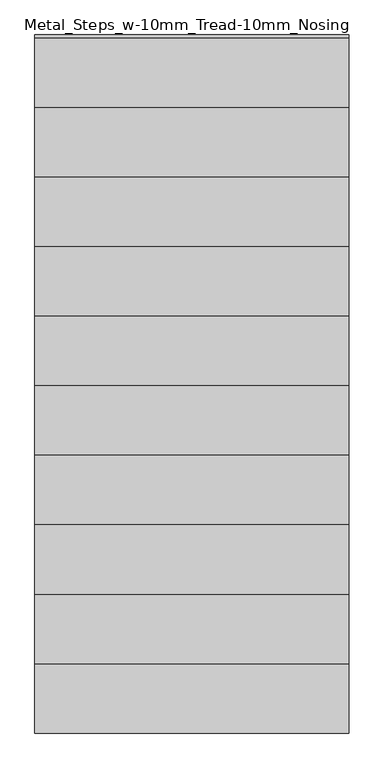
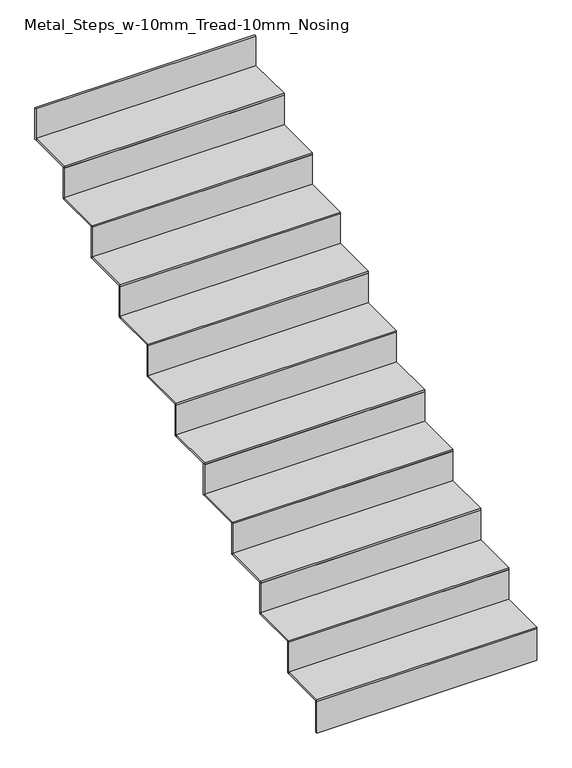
"""IFC4 building model written with IfcOpenShell, lengths in millimetres: stair flight geometry, Metal_Steps_w-10mm_Tread-10mm_Nosing."""

from ifc_helpers import new_model, si_unit, frame, origin, place, context, project, spatial, polyline, outline, extrude, source, transform, mapped, element, save


def metal_steps_w_10mm_tread_10mm_nosing_fdb89158(model_context):
    return source(origin(), model_context, "Body", "SweptSolid", [
        extrude(outline(polyline([(7399.4763518, 4392.5459795), (7399.4763518, 4382.5459795), (6269.4763518, 4382.5459795), (6269.4763518, 4392.5459795), (7399.4763518, 4392.5459795)])), frame((0.0, 0.0, 20625.0), z_axis=(0.0, 0.0, 1.0), x_axis=(1.0, 0.0, 0.0)), (0.0, 0.0, 1.0), 170.4545455),
        extrude(outline(polyline([(6269.4763518, 4632.5459795), (7399.4763518, 4632.5459795), (7399.4763518, 4382.5459795), (6269.4763518, 4382.5459795), (6269.4763518, 4632.5459795)])), frame((0.0, 0.0, 20795.4545455), z_axis=(0.0, 0.0, 1.0), x_axis=(1.0, 0.0, 0.0)), (0.0, 0.0, 1.0), 10.0),
        extrude(outline(polyline([(7399.4763518, 4642.5459795), (7399.4763518, 4632.5459795), (6269.4763518, 4632.5459795), (6269.4763518, 4642.5459795), (7399.4763518, 4642.5459795)])), frame((0.0, 0.0, 20795.4545455), z_axis=(0.0, 0.0, 1.0), x_axis=(1.0, 0.0, 0.0)), (0.0, 0.0, 1.0), 170.4545455),
        extrude(outline(polyline([(6269.4763518, 4882.5459795), (7399.4763518, 4882.5459795), (7399.4763518, 4632.5459795), (6269.4763518, 4632.5459795), (6269.4763518, 4882.5459795)])), frame((0.0, 0.0, 20965.9090909), z_axis=(0.0, 0.0, 1.0), x_axis=(1.0, 0.0, 0.0)), (0.0, 0.0, 1.0), 10.0),
        extrude(outline(polyline([(7399.4763518, 4892.5459795), (7399.4763518, 4882.5459795), (6269.4763518, 4882.5459795), (6269.4763518, 4892.5459795), (7399.4763518, 4892.5459795)])), frame((0.0, 0.0, 20965.9090909), z_axis=(0.0, 0.0, 1.0), x_axis=(1.0, 0.0, 0.0)), (0.0, 0.0, 1.0), 170.4545455),
        extrude(outline(polyline([(6269.4763518, 5132.5459795), (7399.4763518, 5132.5459795), (7399.4763518, 4882.5459795), (6269.4763518, 4882.5459795), (6269.4763518, 5132.5459795)])), frame((0.0, 0.0, 21136.3636364), z_axis=(0.0, 0.0, 1.0), x_axis=(1.0, 0.0, 0.0)), (0.0, 0.0, 1.0), 10.0),
        extrude(outline(polyline([(7399.4763518, 5142.5459795), (7399.4763518, 5132.5459795), (6269.4763518, 5132.5459795), (6269.4763518, 5142.5459795), (7399.4763518, 5142.5459795)])), frame((0.0, 0.0, 21136.3636364), z_axis=(0.0, 0.0, 1.0), x_axis=(1.0, 0.0, 0.0)), (0.0, 0.0, 1.0), 170.4545455),
        extrude(outline(polyline([(6269.4763518, 5382.5459795), (7399.4763518, 5382.5459795), (7399.4763518, 5132.5459795), (6269.4763518, 5132.5459795), (6269.4763518, 5382.5459795)])), frame((0.0, 0.0, 21306.8181818), z_axis=(0.0, 0.0, 1.0), x_axis=(1.0, 0.0, 0.0)), (0.0, 0.0, 1.0), 10.0),
        extrude(outline(polyline([(7399.4763518, 5392.5459795), (7399.4763518, 5382.5459795), (6269.4763518, 5382.5459795), (6269.4763518, 5392.5459795), (7399.4763518, 5392.5459795)])), frame((0.0, 0.0, 21306.8181818), z_axis=(0.0, 0.0, 1.0), x_axis=(1.0, 0.0, 0.0)), (0.0, 0.0, 1.0), 170.4545455),
        extrude(outline(polyline([(6269.4763518, 5632.5459795), (7399.4763518, 5632.5459795), (7399.4763518, 5382.5459795), (6269.4763518, 5382.5459795), (6269.4763518, 5632.5459795)])), frame((0.0, 0.0, 21477.2727273), z_axis=(0.0, 0.0, 1.0), x_axis=(1.0, 0.0, 0.0)), (0.0, 0.0, 1.0), 10.0),
        extrude(outline(polyline([(7399.4763518, 5642.5459795), (7399.4763518, 5632.5459795), (6269.4763518, 5632.5459795), (6269.4763518, 5642.5459795), (7399.4763518, 5642.5459795)])), frame((0.0, 0.0, 21477.2727273), z_axis=(0.0, 0.0, 1.0), x_axis=(1.0, 0.0, 0.0)), (0.0, 0.0, 1.0), 170.4545455),
        extrude(outline(polyline([(6269.4763518, 5882.5459795), (7399.4763518, 5882.5459795), (7399.4763518, 5632.5459795), (6269.4763518, 5632.5459795), (6269.4763518, 5882.5459795)])), frame((0.0, 0.0, 21647.7272727), z_axis=(0.0, 0.0, 1.0), x_axis=(1.0, 0.0, 0.0)), (0.0, 0.0, 1.0), 10.0),
        extrude(outline(polyline([(7399.4763518, 5892.5459795), (7399.4763518, 5882.5459795), (6269.4763518, 5882.5459795), (6269.4763518, 5892.5459795), (7399.4763518, 5892.5459795)])), frame((0.0, 0.0, 21647.7272727), z_axis=(0.0, 0.0, 1.0), x_axis=(1.0, 0.0, 0.0)), (0.0, 0.0, 1.0), 170.4545455),
        extrude(outline(polyline([(6269.4763518, 6132.5459795), (7399.4763518, 6132.5459795), (7399.4763518, 5882.5459795), (6269.4763518, 5882.5459795), (6269.4763518, 6132.5459795)])), frame((0.0, 0.0, 21818.1818182), z_axis=(0.0, 0.0, 1.0), x_axis=(1.0, 0.0, 0.0)), (0.0, 0.0, 1.0), 10.0),
        extrude(outline(polyline([(7399.4763518, 6142.5459795), (7399.4763518, 6132.5459795), (6269.4763518, 6132.5459795), (6269.4763518, 6142.5459795), (7399.4763518, 6142.5459795)])), frame((0.0, 0.0, 21818.1818182), z_axis=(0.0, 0.0, 1.0), x_axis=(1.0, 0.0, 0.0)), (0.0, 0.0, 1.0), 170.4545455),
        extrude(outline(polyline([(6269.4763518, 6382.5459795), (7399.4763518, 6382.5459795), (7399.4763518, 6132.5459795), (6269.4763518, 6132.5459795), (6269.4763518, 6382.5459795)])), frame((0.0, 0.0, 21988.6363636), z_axis=(0.0, 0.0, 1.0), x_axis=(1.0, 0.0, 0.0)), (0.0, 0.0, 1.0), 10.0),
        extrude(outline(polyline([(7399.4763518, 6392.5459795), (7399.4763518, 6382.5459795), (6269.4763518, 6382.5459795), (6269.4763518, 6392.5459795), (7399.4763518, 6392.5459795)])), frame((0.0, 0.0, 21988.6363636), z_axis=(0.0, 0.0, 1.0), x_axis=(1.0, 0.0, 0.0)), (0.0, 0.0, 1.0), 170.4545455),
        extrude(outline(polyline([(6269.4763518, 6632.5459795), (7399.4763518, 6632.5459795), (7399.4763518, 6382.5459795), (6269.4763518, 6382.5459795), (6269.4763518, 6632.5459795)])), frame((0.0, 0.0, 22159.0909091), z_axis=(0.0, 0.0, 1.0), x_axis=(1.0, 0.0, 0.0)), (0.0, 0.0, 1.0), 10.0),
        extrude(outline(polyline([(7399.4763518, 6642.5459795), (7399.4763518, 6632.5459795), (6269.4763518, 6632.5459795), (6269.4763518, 6642.5459795), (7399.4763518, 6642.5459795)])), frame((0.0, 0.0, 22159.0909091), z_axis=(0.0, 0.0, 1.0), x_axis=(1.0, 0.0, 0.0)), (0.0, 0.0, 1.0), 170.4545455),
        extrude(outline(polyline([(7399.4763518, 6892.5459795), (7399.4763518, 6882.5459795), (6269.4763518, 6882.5459795), (6269.4763518, 6892.5459795), (7399.4763518, 6892.5459795)])), frame((0.0, 0.0, 22329.5454545), z_axis=(0.0, 0.0, 1.0), x_axis=(1.0, 0.0, 0.0)), (0.0, 0.0, 1.0), 170.4545455),
        extrude(outline(polyline([(6269.4763518, 6882.5459795), (7399.4763518, 6882.5459795), (7399.4763518, 6632.5459795), (6269.4763518, 6632.5459795), (6269.4763518, 6882.5459795)])), frame((0.0, 0.0, 22329.5454545), z_axis=(0.0, 0.0, 1.0), x_axis=(1.0, 0.0, 0.0)), (0.0, 0.0, 1.0), 10.0),
    ])


if __name__ == "__main__":
    model = new_model("IFC4")
    model_context = context("Model", 3, world=origin())
    ifc_project = project(units=[si_unit("LENGTHUNIT", "METRE", prefix="MILLI")], contexts=[model_context])
    site = spatial("IfcSite", under=ifc_project)
    building = spatial("IfcBuilding", under=site)
    placement = place(None, origin())
    metal_steps_w_10mm_tread_10mm_nosing_shape = metal_steps_w_10mm_tread_10mm_nosing_fdb89158(model_context)
    element("IfcStairFlight", 1, ObjectType="Metal_Steps_w-10mm_Tread-10mm_Nosing", at=placement, inside=building, context=model_context, shape_type="MappedRepresentation", body=[
        mapped(metal_steps_w_10mm_tread_10mm_nosing_shape, transform((0.0, 0.0, 0.0), x_axis=(1.0, 0.0, 0.0), y_axis=(0.0, 1.0, 0.0), z_axis=(0.0, 0.0, 1.0))),
    ])
    save(model, "model.ifc")
